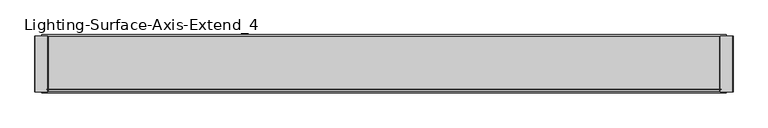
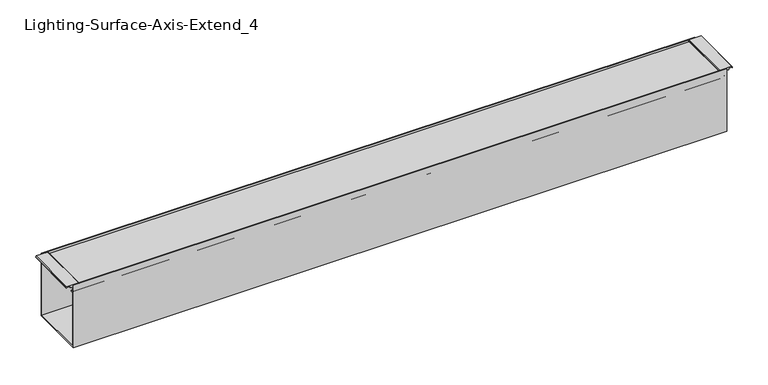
"""IFC4 building model written with IfcOpenShell, lengths in millimetres: light fixture geometry, Lighting-Surface-Axis-Extend_4 : EX4S-900-80-35-SO-4."""

from ifc_helpers import new_model, si_unit, point, frame, frame_2d, origin, place, context, project, spatial, polyline, circle_curve, trimmed, segment, composite_curve, outline, extrude, source, transform, mapped, element, save


def lighting_surface_axis_extend_4_af5dcece(model_context):
    return source(origin(), model_context, "Body", "SweptSolid", [
        extrude(outline(polyline([(123.6757861, 630.8598), (124.7775, 629.9352563), (124.7775, 607.5781437), (123.6757861, 606.6536), (122.20575, 606.6536), (122.20575, 607.44735), (122.9995, 607.44735), (122.9995, 613.918), (120.1932981, 613.918), (120.1932981, 623.5954), (122.9995, 623.5954), (122.9995, 630.06605), (122.20575, 630.06605), (122.20575, 630.8598), (123.6757861, 630.8598)])), frame((0.0, -50.75301, 0.0), z_axis=(0.0, 1.0, 0.0), x_axis=(0.0, 0.0, 1.0)), (0.0, 0.0, 1.0), 101.50602),
        extrude(outline(polyline([(123.6757861, -606.6536), (124.7775, -607.5781437), (124.7775, -629.9352563), (123.6757861, -630.8598), (122.20575, -630.8598), (122.20575, -630.06605), (122.9995, -630.06605), (122.9995, -623.5954), (120.1932981, -623.5954), (120.1932981, -613.918), (122.9995, -613.918), (122.9995, -607.44735), (122.20575, -607.44735), (122.20575, -606.6536), (123.6757861, -606.6536)])), frame((0.0, -50.75301, 0.0), z_axis=(0.0, 1.0, 0.0), x_axis=(0.0, 0.0, 1.0)), (0.0, 0.0, 1.0), 101.50602),
        extrude(outline(composite_curve([segment(polyline([(-44.9537362, 119.8879991), (-45.2924281, 113.4253737)]), True, "CONTINUOUS"), segment(trimmed(circle_curve(frame_2d((-48.03521, 110.4265)), 4.064), [point((-45.2924281, 113.4253737))], [point((-46.1628914, 106.8194903))], False, "CARTESIAN"), True, "CONTINUOUS"), segment(trimmed(circle_curve(frame_2d((-42.930354, 107.6083457)), 3.3274001), [point((-46.1628914, 106.8194903))], [point((-45.3476056, 105.3217575))], True, "CARTESIAN"), True, "CONTINUOUS"), segment(trimmed(circle_curve(frame_2d((-37.9113277, 112.3560708)), 10.2362001), [point((-45.3476056, 105.3217575))], [point((-43.9929166, 104.1223555))], True, "CARTESIAN"), True, "CONTINUOUS"), segment(trimmed(circle_curve(frame_2d((-44.4833673, 103.4583462)), 0.8255), [point((-43.9929166, 104.1223555))], [point((-44.973818, 102.7943369))], False, "CARTESIAN"), True, "CONTINUOUS"), segment(trimmed(circle_curve(frame_2d((-37.9113269, 112.3560717)), 11.8872013), [point((-44.973818, 102.7943369))], [point((-46.5470052, 104.1871908))], False, "CARTESIAN"), True, "CONTINUOUS"), segment(trimmed(circle_curve(frame_2d((-42.930354, 107.6083457)), 4.9784001), [point((-46.5470052, 104.1871908))], [point((-47.8918907, 108.01776))], False, "CARTESIAN"), True, "CONTINUOUS"), segment(trimmed(circle_curve(frame_2d((-48.03521, 110.4265)), 2.413), [point((-47.8918907, 108.01776))], [point((-46.2564041, 112.0569658))], True, "CARTESIAN"), True, "CONTINUOUS"), segment(trimmed(circle_curve(frame_2d((-44.3839769, 113.7732456)), 2.54), [point((-46.2564041, 112.0569658))], [point((-46.9204959, 113.9061789))], False, "CARTESIAN"), True, "CONTINUOUS"), segment(polyline([(-46.9204959, 113.9061789), (-46.607002, 119.8879991), (-49.61001, 119.8879991), (-49.61001, 121.793), (49.61001, 121.793), (49.61001, 119.8879991), (46.607002, 119.8879991), (46.9204959, 113.9061789)]), True, "CONTINUOUS"), segment(trimmed(circle_curve(frame_2d((44.3839769, 113.7732456)), 2.54), [point((46.9204959, 113.9061789))], [point((46.2564041, 112.0569658))], False, "CARTESIAN"), True, "CONTINUOUS"), segment(trimmed(circle_curve(frame_2d((48.03521, 110.4265)), 2.413), [point((46.2564041, 112.0569658))], [point((47.8918907, 108.01776))], True, "CARTESIAN"), True, "CONTINUOUS"), segment(trimmed(circle_curve(frame_2d((42.930354, 107.6083457)), 4.9784001), [point((47.8918907, 108.01776))], [point((46.5470052, 104.1871908))], False, "CARTESIAN"), True, "CONTINUOUS"), segment(trimmed(circle_curve(frame_2d((37.9113269, 112.3560717)), 11.8872013), [point((46.5470052, 104.1871908))], [point((44.973818, 102.7943369))], False, "CARTESIAN"), True, "CONTINUOUS"), segment(trimmed(circle_curve(frame_2d((44.4833673, 103.4583462)), 0.8255), [point((44.973818, 102.7943369))], [point((43.9929166, 104.1223555))], False, "CARTESIAN"), True, "CONTINUOUS"), segment(trimmed(circle_curve(frame_2d((37.9113277, 112.3560708)), 10.2362001), [point((43.9929166, 104.1223555))], [point((45.3476056, 105.3217575))], True, "CARTESIAN"), True, "CONTINUOUS"), segment(trimmed(circle_curve(frame_2d((42.930354, 107.6083457)), 3.3274001), [point((45.3476056, 105.3217575))], [point((46.1628914, 106.8194903))], True, "CARTESIAN"), True, "CONTINUOUS"), segment(trimmed(circle_curve(frame_2d((48.03521, 110.4265)), 4.064), [point((46.1628914, 106.8194903))], [point((45.2924281, 113.4253737))], False, "CARTESIAN"), True, "CONTINUOUS"), segment(polyline([(45.2924281, 113.4253737), (44.9537362, 119.8879991), (-44.9537362, 119.8879991)]), True, "CONTINUOUS")], self_intersect=False)), frame((-609.6, 0.0, 0.0), z_axis=(1.0, 0.0, 0.0), x_axis=(0.0, 1.0, 0.0)), (0.0, 0.0, 1.0), 1219.2),
        extrude(outline(composite_curve([segment(polyline([(-50.75301, 109.8677), (-50.75301, 2.032), (50.75301, 2.032), (50.75301, 109.8677), (48.9135897, 109.8677)]), True, "CONTINUOUS"), segment(trimmed(circle_curve(frame_2d((47.4072397, 109.8677)), 1.5063501), [point((48.9135897, 109.8677))], [point((46.6540646, 108.5631626))], False, "CARTESIAN"), True, "CONTINUOUS"), segment(trimmed(circle_curve(frame_2d((47.8452221, 110.6263079)), 2.382315), [point((46.6540646, 108.5631626))], [point((45.4706616, 110.8183682))], False, "CARTESIAN"), True, "CONTINUOUS"), segment(polyline([(45.4706616, 110.8183682), (48.84801, 113.6523), (48.84801, 111.8997), (50.75301, 111.8997), (50.75301, 118.4275), (48.84801, 118.4275), (48.84801, 116.9035), (47.19701, 116.9900252), (47.19701, 119.6975), (50.75301, 119.6975), (50.75301, 124.7775), (52.78501, 124.7775), (52.78501, 0.0), (-52.78501, 0.0), (-52.78501, 124.7775), (-50.75301, 124.7775), (-50.75301, 119.6975), (-47.19701, 119.6975), (-47.19701, 116.9900252), (-48.84801, 116.9035), (-48.84801, 118.4275), (-50.75301, 118.4275), (-50.75301, 111.8997), (-48.84801, 111.8997), (-48.84801, 113.6523), (-45.4706616, 110.8183682)]), True, "CONTINUOUS"), segment(trimmed(circle_curve(frame_2d((-47.8452221, 110.6263079)), 2.382315), [point((-45.4706616, 110.8183682))], [point((-46.6540646, 108.5631626))], False, "CARTESIAN"), True, "CONTINUOUS"), segment(trimmed(circle_curve(frame_2d((-47.4072397, 109.8677)), 1.5063501), [point((-46.6540646, 108.5631626))], [point((-48.9135897, 109.8677))], False, "CARTESIAN"), True, "CONTINUOUS"), segment(polyline([(-48.9135897, 109.8677), (-50.75301, 109.8677)]), True, "CONTINUOUS")], self_intersect=False)), frame((-618.7567, 0.0, 0.0), z_axis=(1.0, 0.0, 0.0), x_axis=(0.0, 1.0, 0.0)), (0.0, 0.0, 1.0), 1237.5134),
    ])


if __name__ == "__main__":
    model = new_model("IFC4")
    model_context = context("Model", 3, world=origin())
    ifc_project = project(units=[si_unit("LENGTHUNIT", "METRE", prefix="MILLI")], contexts=[model_context])
    site = spatial("IfcSite", under=ifc_project)
    building = spatial("IfcBuilding", under=site)
    placement = place(None, origin())
    lighting_surface_axis_extend_4_shape = lighting_surface_axis_extend_4_af5dcece(model_context)
    element("IfcLightFixture", 1, ObjectType="Lighting-Surface-Axis-Extend_4 : EX4S-900-80-35-SO-4", at=placement, inside=building, context=model_context, shape_type="MappedRepresentation", body=[
        mapped(lighting_surface_axis_extend_4_shape, transform((0.0, 0.0, 0.0), x_axis=(1.0, 0.0, 0.0), y_axis=(0.0, 1.0, 0.0), z_axis=(0.0, 0.0, 1.0))),
    ])
    save(model, "model.ifc")
